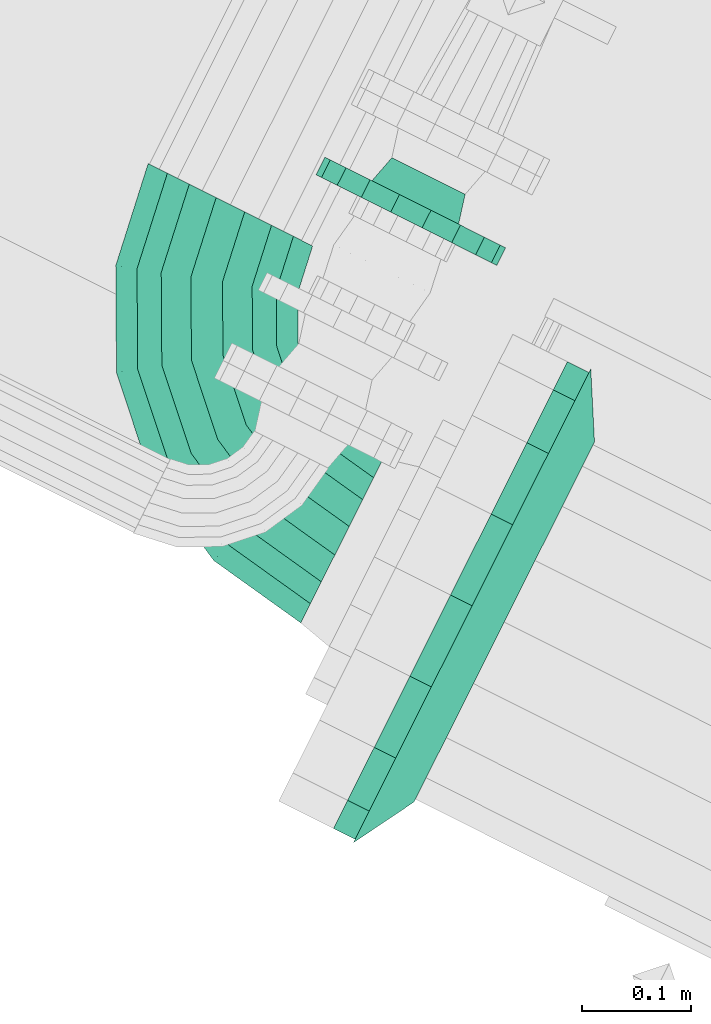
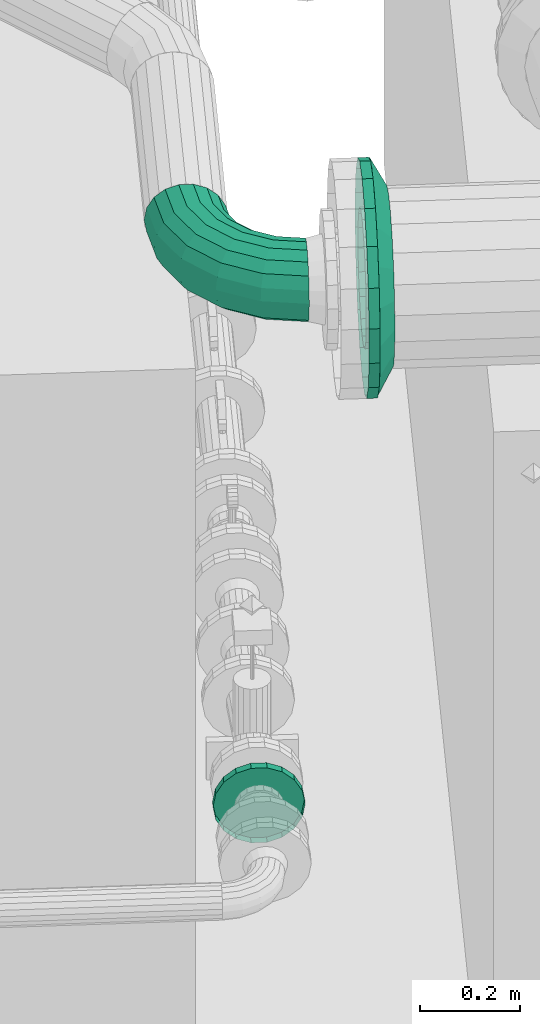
# One storey, part 44 of 206: 2 flow fittings, 1 flow segment.
"""IFC2X3 building model written with IfcOpenShell, lengths in metres."""

from ifc_helpers import new_model, si_unit, derived_unit, direction, frame, origin, place, context, subcontext, project, spatial, face_set, surface_model, source, transform, mapped, material, type_object, type_shapes, element, save


model = new_model("IFC2X3")

# Units and contexts
model_context = context("Model", 3, precision=5.2338327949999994e-05, world=origin(), true_north=direction((0.0, 1.0)))
body_context = subcontext(model_context, "Body", "Model", "MODEL_VIEW")
ifc_project = project(units=[si_unit("LENGTHUNIT", "METRE"), si_unit("AREAUNIT", "SQUARE_METRE"), si_unit("VOLUMEUNIT", "CUBIC_METRE"), si_unit("MASSUNIT", "GRAM", prefix="KILO"), si_unit("PLANEANGLEUNIT", "RADIAN"), derived_unit("THERMALTRANSMITTANCEUNIT", [(si_unit("MASSUNIT", "GRAM", prefix="KILO"), 1), (si_unit("THERMODYNAMICTEMPERATUREUNIT", "KELVIN"), -1), (si_unit("TIMEUNIT", "SECOND"), -3)])], contexts=[model_context])

# Site, building, storey
site_placement = place(None, frame((0.0, 0.0, 0.0), z_axis=(0.0, 0.0, 1.0), x_axis=(0.8939966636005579, -0.4480736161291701, 0.0)))
site = spatial("IfcSite", under=ifc_project, at=site_placement, Name="Default", CompositionType="ELEMENT")
building_placement = place(site_placement, origin())
building = spatial("IfcBuilding", under=site, at=building_placement, CompositionType="ELEMENT")
storey_placement = place(building_placement, origin())
storey = spatial("IfcBuildingStorey", under=building, at=storey_placement, Name="Erdgeschoss", CompositionType="ELEMENT", Elevation=0.0)

# Flow segment
ifc_material_1 = material(Name="IfcSurfaceStyle #9317")
distribution_element_type_1 = type_object("IfcDistributionElementType", Name="Rohrbogen 342983:Rohrbogen 342983", material=ifc_material_1)
shared_shape_1 = source(origin(), body_context, "Body", "SurfaceModel", [
    surface_model("IfcFaceBasedSurfaceModel", [(22.435524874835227, 4.785162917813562, 2.354), (22.435524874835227, 4.790237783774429, 2.382780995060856), (22.340324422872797, 4.80531605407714, 2.382780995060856), (22.338756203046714, 4.800489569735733, 2.354), (22.254442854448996, 4.849074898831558, 2.3827809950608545), (22.251459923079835, 4.844969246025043, 2.3539999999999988), (22.186286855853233, 4.917230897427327, 2.382780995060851), (22.182181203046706, 4.91424796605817, 2.353999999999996), (22.1425280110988, 5.003112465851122, 2.382780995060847), (22.137701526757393, 5.001544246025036, 2.3539999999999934), (22.127449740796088, 5.098312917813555, 2.382780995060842), (22.122374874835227, 5.098312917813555, 2.3539999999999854), (22.435524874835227, 4.8048502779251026, 2.408090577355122), (22.344839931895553, 4.819213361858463, 2.408090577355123), (22.26303186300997, 4.860896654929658, 2.408090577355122), (22.198108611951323, 4.9258199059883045, 2.408090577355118), (22.156425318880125, 5.007627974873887, 2.4080905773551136), (22.142062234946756, 5.098312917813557, 2.4080905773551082), (22.435524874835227, 4.827237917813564, 2.4268760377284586), (22.35175809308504, 4.840505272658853, 2.426876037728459), (22.276190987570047, 4.879008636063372, 2.4268760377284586), (22.216220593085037, 4.938979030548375, 2.426876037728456), (22.177717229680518, 5.014546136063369, 2.4268760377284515), (22.16444987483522, 5.098312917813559, 2.4268760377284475), (22.435524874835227, 4.854700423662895, 2.4368715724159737), (22.3602444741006, 4.866623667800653, 2.4368715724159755), (22.292333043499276, 4.901226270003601, 2.4368715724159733), (22.238438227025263, 4.955121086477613, 2.436871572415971), (22.20383562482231, 5.023032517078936, 2.4368715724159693), (22.19191238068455, 5.098312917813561, 2.4368715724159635), (22.43552487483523, 4.883925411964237, 2.436871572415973), (22.36927549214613, 4.894418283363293, 2.4368715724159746), (22.309511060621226, 4.924869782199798, 2.436871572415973), (22.26208173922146, 4.972299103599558, 2.43687157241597), (22.231630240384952, 5.03206353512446, 2.436871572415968), (22.221137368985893, 5.09831291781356, 2.4368715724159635), (22.435524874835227, 4.911387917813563, 2.426876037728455), (22.37776187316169, 4.9205366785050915, 2.426876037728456), (22.325653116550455, 4.947087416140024, 2.4268760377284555), (22.284299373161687, 4.988441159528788, 2.4268760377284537), (22.257748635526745, 5.040549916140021, 2.42687603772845), (22.248599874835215, 5.098312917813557, 2.4268760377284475), (22.43552487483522, 4.933775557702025, 2.408090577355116), (22.384680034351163, 4.941828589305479, 2.408090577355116), (22.338812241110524, 4.965199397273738, 2.408090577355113), (22.302411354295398, 5.001600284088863, 2.4080905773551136), (22.27904054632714, 5.047468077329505, 2.4080905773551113), (22.27098751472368, 5.098312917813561, 2.4080905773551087), (22.43552487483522, 4.948388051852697, 2.3827809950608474), (22.38919554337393, 4.955725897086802, 2.382780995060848), (22.347401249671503, 4.977021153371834, 2.3827809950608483), (22.3142331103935, 5.010189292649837, 2.382780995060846), (22.292937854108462, 5.0519835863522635, 2.382780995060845), (22.285600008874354, 5.098312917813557, 2.382780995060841), (22.43552487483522, 4.95346291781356, 2.3539999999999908), (22.390763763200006, 4.960552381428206, 2.353999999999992), (22.350384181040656, 4.981126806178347, 2.3539999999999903), (22.318338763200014, 5.013172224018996, 2.35399999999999), (22.29776433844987, 5.053551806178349, 2.353999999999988), (22.29067487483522, 5.09831291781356, 2.3539999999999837), (22.435524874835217, 4.948388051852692, 2.3252190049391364), (22.389195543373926, 4.955725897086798, 2.3252190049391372), (22.347401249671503, 4.977021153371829, 2.325219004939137), (22.314233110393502, 5.010189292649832, 2.3252190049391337), (22.292937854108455, 5.05198358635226, 2.3252190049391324), (22.285600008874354, 5.098312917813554, 2.325219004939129), (22.43552487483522, 4.9337755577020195, 2.299909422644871), (22.384680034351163, 4.941828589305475, 2.2999094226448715), (22.33881224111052, 4.965199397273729, 2.2999094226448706), (22.302411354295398, 5.001600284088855, 2.29990942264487), (22.27904054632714, 5.047468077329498, 2.2999094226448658), (22.270987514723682, 5.098312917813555, 2.299909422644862), (22.43552487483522, 4.911387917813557, 2.2811239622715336), (22.377761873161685, 4.9205366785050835, 2.2811239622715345), (22.325653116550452, 4.947087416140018, 2.2811239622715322), (22.28429937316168, 4.988441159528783, 2.2811239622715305), (22.257748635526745, 5.040549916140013, 2.281123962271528), (22.248599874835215, 5.098312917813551, 2.2811239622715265), (22.435524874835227, 4.883925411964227, 2.2711284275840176), (22.36927549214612, 4.894418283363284, 2.2711284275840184), (22.30951106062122, 4.924869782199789, 2.2711284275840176), (22.26208173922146, 4.972299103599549, 2.271128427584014), (22.23163024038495, 5.0320635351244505, 2.2711284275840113), (22.221137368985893, 5.098312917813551, 2.271128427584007), (22.435524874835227, 4.854700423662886, 2.271128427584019), (22.3602444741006, 4.866623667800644, 2.27112842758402), (22.292333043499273, 4.901226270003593, 2.271128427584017), (22.238438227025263, 4.955121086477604, 2.271128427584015), (22.203835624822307, 5.023032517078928, 2.2711284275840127), (22.19191238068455, 5.098312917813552, 2.271128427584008), (22.435524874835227, 4.827237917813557, 2.281123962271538), (22.35175809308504, 4.840505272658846, 2.281123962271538), (22.276190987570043, 4.879008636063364, 2.2811239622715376), (22.216220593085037, 4.938979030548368, 2.281123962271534), (22.177717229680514, 5.014546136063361, 2.28112396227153), (22.164449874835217, 5.098312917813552, 2.2811239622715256), (22.435524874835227, 4.804850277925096, 2.2999094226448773), (22.344839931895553, 4.819213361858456, 2.299909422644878), (22.26303186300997, 4.860896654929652, 2.299909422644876), (22.198108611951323, 4.925819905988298, 2.2999094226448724), (22.156425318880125, 5.0076279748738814, 2.2999094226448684), (22.142062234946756, 5.0983129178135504, 2.299909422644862), (22.435524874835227, 4.790237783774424, 2.325219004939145), (22.340324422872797, 4.805316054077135, 2.325219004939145), (22.254442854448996, 4.849074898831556, 2.325219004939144), (22.186286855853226, 4.917230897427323, 2.325219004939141), (22.142528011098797, 5.003112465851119, 2.3252190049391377), (22.12744974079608, 5.098312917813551, 2.3252190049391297)], [face_set([[[0, 1, 2, 3]], [[3, 2, 4, 5]], [[5, 4, 6, 7]], [[7, 6, 8, 9]], [[9, 8, 10, 11]], [[1, 12, 13, 2]], [[2, 13, 14, 4]], [[4, 14, 15, 6]], [[6, 15, 16, 8]], [[8, 16, 17, 10]], [[12, 18, 19, 13]], [[13, 19, 20, 14]], [[14, 20, 21, 15]], [[15, 21, 22, 16]], [[16, 22, 23, 17]], [[18, 24, 25, 19]], [[19, 25, 26, 20]], [[20, 26, 27, 21]], [[21, 27, 28, 22]], [[22, 28, 29, 23]], [[24, 30, 31, 25]], [[25, 31, 32, 26]], [[26, 32, 33, 27]], [[27, 33, 34, 28]], [[28, 34, 35, 29]], [[30, 36, 37, 31]], [[31, 37, 38, 32]], [[32, 38, 39, 33]], [[33, 39, 40, 34]], [[34, 40, 41, 35]], [[36, 42, 43, 37]], [[37, 43, 44, 38]], [[38, 44, 45, 39]], [[39, 45, 46, 40]], [[40, 46, 47, 41]], [[42, 48, 49, 43]], [[43, 49, 50, 44]], [[44, 50, 51, 45]], [[45, 51, 52, 46]], [[46, 52, 53, 47]], [[48, 54, 55, 49]], [[49, 55, 56, 50]], [[50, 56, 57, 51]], [[51, 57, 58, 52]], [[52, 58, 59, 53]], [[54, 60, 61, 55]], [[55, 61, 62, 56]], [[56, 62, 63, 57]], [[57, 63, 64, 58]], [[58, 64, 65, 59]], [[60, 66, 67, 61]], [[61, 67, 68, 62]], [[62, 68, 69, 63]], [[63, 69, 70, 64]], [[64, 70, 71, 65]], [[66, 72, 73, 67]], [[67, 73, 74, 68]], [[68, 74, 75, 69]], [[69, 75, 76, 70]], [[70, 76, 77, 71]], [[72, 78, 79, 73]], [[73, 79, 80, 74]], [[74, 80, 81, 75]], [[75, 81, 82, 76]], [[76, 82, 83, 77]], [[78, 84, 85, 79]], [[79, 85, 86, 80]], [[80, 86, 87, 81]], [[81, 87, 88, 82]], [[82, 88, 89, 83]], [[84, 90, 91, 85]], [[85, 91, 92, 86]], [[86, 92, 93, 87]], [[87, 93, 94, 88]], [[88, 94, 95, 89]], [[90, 96, 97, 91]], [[91, 97, 98, 92]], [[92, 98, 99, 93]], [[93, 99, 100, 94]], [[94, 100, 101, 95]], [[96, 102, 103, 97]], [[97, 103, 104, 98]], [[98, 104, 105, 99]], [[99, 105, 106, 100]], [[100, 106, 107, 101]], [[102, 0, 3, 103]], [[103, 3, 5, 104]], [[104, 5, 7, 105]], [[105, 7, 9, 106]], [[106, 9, 11, 107]]])]),
])
type_shapes(distribution_element_type_1, [shared_shape_1])
flow_segment_placement = place(storey_placement, origin())
element("IfcFlowSegment", 1, at=flow_segment_placement, inside=storey, type_object=distribution_element_type_1, material=ifc_material_1, Name="Rohrbogen", ObjectType="Rohrbogen", context=body_context, shape_type="MappedRepresentation", body=[
    mapped(shared_shape_1, transform((0.0, 0.0, 0.0), scale=1.0)),
])

# Flow fittings
distribution_element_type_2 = type_object("IfcDistributionElementType", Name="Flansch 343006:Flansch 343006", material=ifc_material_1)
shared_shape_2 = source(origin(), body_context, "Body", "SurfaceModel", [
    surface_model("IfcFaceBasedSurfaceModel", [(22.546524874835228, 4.869312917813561, 2.4964999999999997), (22.546524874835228, 4.820575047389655, 2.4879061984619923), (22.568524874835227, 4.820575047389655, 2.4879061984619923), (22.568524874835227, 4.869312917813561, 2.4964999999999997), (22.546524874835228, 4.777715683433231, 2.4631613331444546), (22.568524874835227, 4.777715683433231, 2.4631613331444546), (22.546524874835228, 4.745904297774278, 2.4252499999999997), (22.568524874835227, 4.745904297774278, 2.4252499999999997), (22.546524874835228, 4.72897781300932, 2.378744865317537), (22.568524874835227, 4.72897781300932, 2.378744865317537), (22.546524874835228, 4.728977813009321, 2.329255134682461), (22.568524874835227, 4.728977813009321, 2.329255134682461), (22.546524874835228, 4.745904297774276, 2.2827499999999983), (22.568524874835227, 4.745904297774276, 2.2827499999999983), (22.546524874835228, 4.777715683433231, 2.2448386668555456), (22.568524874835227, 4.777715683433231, 2.2448386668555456), (22.546524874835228, 4.820575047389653, 2.2200938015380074), (22.568524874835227, 4.820575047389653, 2.2200938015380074), (22.546524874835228, 4.869312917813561, 2.2115), (22.568524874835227, 4.869312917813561, 2.2115), (22.546524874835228, 4.918050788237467, 2.2200938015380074), (22.568524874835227, 4.918050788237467, 2.2200938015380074), (22.546524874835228, 4.960910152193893, 2.2448386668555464), (22.568524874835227, 4.960910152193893, 2.2448386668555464), (22.546524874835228, 4.992721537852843, 2.282749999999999), (22.568524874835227, 4.992721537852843, 2.282749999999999), (22.546524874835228, 5.0096480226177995, 2.329255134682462), (22.568524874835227, 5.0096480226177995, 2.329255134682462), (22.546524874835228, 5.0096480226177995, 2.3787448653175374), (22.568524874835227, 5.0096480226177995, 2.3787448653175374), (22.546524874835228, 4.992721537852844, 2.4252499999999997), (22.568524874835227, 4.992721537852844, 2.4252499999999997), (22.546524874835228, 4.960910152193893, 2.4631613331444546), (22.568524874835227, 4.960910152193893, 2.4631613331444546), (22.546524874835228, 4.918050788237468, 2.4879061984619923), (22.568524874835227, 4.918050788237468, 2.4879061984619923), (22.568524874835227, 4.869312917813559, 2.353999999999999), (22.568524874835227, 4.777312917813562, 2.3539999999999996), (22.568524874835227, 4.7828611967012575, 2.322534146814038), (22.601524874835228, 4.790237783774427, 2.3252190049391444), (22.601524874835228, 4.785162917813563, 2.353999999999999), (22.568524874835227, 4.798836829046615, 2.294863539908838), (22.601524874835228, 4.804850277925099, 2.2999094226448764), (22.568524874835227, 4.823312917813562, 2.2743256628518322), (22.601524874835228, 4.8272379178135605, 2.2811239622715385), (22.568524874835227, 4.853337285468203, 2.2633976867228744), (22.601524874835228, 4.854700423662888, 2.2711284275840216), (22.568524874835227, 4.885288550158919, 2.263397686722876), (22.601524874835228, 4.883925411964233, 2.271128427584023), (22.568524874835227, 4.915312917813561, 2.2743256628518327), (22.601524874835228, 4.9113879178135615, 2.281123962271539), (22.568524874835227, 4.9397890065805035, 2.294863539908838), (22.601524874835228, 4.933775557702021, 2.299909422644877), (22.568524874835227, 4.955764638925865, 2.3225341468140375), (22.601524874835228, 4.948388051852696, 2.325219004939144), (22.568524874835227, 4.9613129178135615, 2.354), (22.601524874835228, 4.95346291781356, 2.354), (22.568524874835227, 4.955764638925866, 2.385465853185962), (22.601524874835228, 4.948388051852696, 2.3827809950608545), (22.568524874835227, 4.939789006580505, 2.4131364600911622), (22.601524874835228, 4.933775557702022, 2.408090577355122), (22.568524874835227, 4.91531291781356, 2.433674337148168), (22.601524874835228, 4.9113879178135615, 2.4268760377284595), (22.568524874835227, 4.88528855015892, 2.444602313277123), (22.601524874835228, 4.883925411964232, 2.436871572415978), (22.568524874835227, 4.853337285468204, 2.4446023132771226), (22.601524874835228, 4.85470042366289, 2.436871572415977), (22.568524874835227, 4.82331291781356, 2.433674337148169), (22.601524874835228, 4.827237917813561, 2.42687603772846), (22.568524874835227, 4.798836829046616, 2.4131364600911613), (22.601524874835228, 4.8048502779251, 2.4080905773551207), (22.568524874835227, 4.782861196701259, 2.3854658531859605), (22.601524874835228, 4.790237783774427, 2.382780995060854), (22.546524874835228, 4.869312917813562, 2.5965), (22.546524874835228, 4.786373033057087, 2.5818754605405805), (22.568524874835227, 4.786373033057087, 2.5818754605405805), (22.568524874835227, 4.869312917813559, 2.5964999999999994), (22.546524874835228, 4.713436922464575, 2.53976577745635), (22.568524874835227, 4.713436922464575, 2.53976577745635), (22.546524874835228, 4.659301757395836, 2.4752499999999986), (22.568524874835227, 4.659301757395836, 2.4752499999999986), (22.546524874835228, 4.630497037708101, 2.3961096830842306), (22.568524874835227, 4.630497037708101, 2.3961096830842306), (22.546524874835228, 4.630497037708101, 2.3118903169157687), (22.568524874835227, 4.630497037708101, 2.3118903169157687), (22.546524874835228, 4.659301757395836, 2.23275), (22.568524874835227, 4.659301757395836, 2.23275), (22.546524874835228, 4.713436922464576, 2.168234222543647), (22.568524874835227, 4.713436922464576, 2.168234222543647), (22.546524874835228, 4.786373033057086, 2.1261245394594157), (22.568524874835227, 4.786373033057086, 2.1261245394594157), (22.546524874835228, 4.869312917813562, 2.111499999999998), (22.568524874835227, 4.869312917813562, 2.111499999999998), (22.546524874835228, 4.952252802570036, 2.126124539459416), (22.568524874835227, 4.952252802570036, 2.126124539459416), (22.546524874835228, 5.025188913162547, 2.1682342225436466), (22.568524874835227, 5.025188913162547, 2.1682342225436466), (22.546524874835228, 5.079324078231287, 2.2327500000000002), (22.568524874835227, 5.079324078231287, 2.2327500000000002), (22.546524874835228, 5.1081287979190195, 2.3118903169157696), (22.568524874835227, 5.1081287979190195, 2.3118903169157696), (22.546524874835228, 5.1081287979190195, 2.3961096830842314), (22.568524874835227, 5.1081287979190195, 2.3961096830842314), (22.546524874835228, 5.079324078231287, 2.4752499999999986), (22.568524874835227, 5.079324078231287, 2.4752499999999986), (22.546524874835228, 5.0251889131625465, 2.539765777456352), (22.568524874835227, 5.0251889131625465, 2.539765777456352), (22.546524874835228, 4.952252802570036, 2.5818754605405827), (22.568524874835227, 4.952252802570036, 2.5818754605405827), (22.568524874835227, 4.62681291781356, 2.353999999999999), (22.568524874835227, 4.6414374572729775, 2.2710601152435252), (22.601524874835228, 4.6962685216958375, 2.2910169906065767), (22.601524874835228, 4.685162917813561, 2.354), (22.568524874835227, 4.683547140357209, 2.1981240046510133), (22.601524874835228, 4.728245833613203, 2.2356306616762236), (22.568524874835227, 4.74806291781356, 2.143988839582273), (22.601524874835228, 4.777237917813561, 2.1945214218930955), (22.568524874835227, 4.827203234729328, 2.115184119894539), (22.601524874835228, 4.837335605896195, 2.1726476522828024), (22.568524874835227, 4.91142260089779, 2.115184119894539), (22.601524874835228, 4.901290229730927, 2.1726476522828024), (22.568524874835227, 4.990562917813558, 2.1439888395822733), (22.601524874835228, 4.961387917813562, 2.194521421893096), (22.568524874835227, 5.055078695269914, 2.1981240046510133), (22.601524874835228, 5.01038000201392, 2.235630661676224), (22.568524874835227, 5.097188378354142, 2.271060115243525), (22.601524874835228, 5.042357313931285, 2.291016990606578), (22.568524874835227, 5.111812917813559, 2.3540000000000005), (22.601524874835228, 5.053462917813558, 2.3539999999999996), (22.568524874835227, 5.097188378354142, 2.436939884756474), (22.601524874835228, 5.0423573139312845, 2.4169830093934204), (22.568524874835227, 5.0550786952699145, 2.5098759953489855), (22.601524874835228, 5.010380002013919, 2.4723693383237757), (22.568524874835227, 4.99056291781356, 2.5640111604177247), (22.601524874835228, 4.961387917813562, 2.5134785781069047), (22.568524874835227, 4.911422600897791, 2.59281588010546), (22.601524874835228, 4.901290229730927, 2.5353523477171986), (22.568524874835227, 4.827203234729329, 2.5928158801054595), (22.601524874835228, 4.837335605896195, 2.535352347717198), (22.568524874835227, 4.74806291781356, 2.564011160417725), (22.601524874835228, 4.777237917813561, 2.5134785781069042), (22.568524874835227, 4.683547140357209, 2.509875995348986), (22.601524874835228, 4.728245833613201, 2.472369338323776), (22.568524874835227, 4.641437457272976, 2.436939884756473), (22.601524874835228, 4.6962685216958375, 2.4169830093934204)], [face_set([[[0, 1, 2, 3]], [[1, 4, 5, 2]], [[4, 6, 7, 5]], [[6, 8, 9, 7]], [[8, 10, 11, 9]], [[10, 12, 13, 11]], [[12, 14, 15, 13]], [[14, 16, 17, 15]], [[16, 18, 19, 17]], [[18, 20, 21, 19]], [[20, 22, 23, 21]], [[22, 24, 25, 23]], [[24, 26, 27, 25]], [[26, 28, 29, 27]], [[28, 30, 31, 29]], [[30, 32, 33, 31]], [[32, 34, 35, 33]], [[34, 0, 3, 35]], [[36, 35, 3]], [[36, 33, 35]], [[36, 31, 33]], [[36, 29, 31]], [[36, 27, 29]], [[36, 25, 27]], [[36, 23, 25]], [[36, 21, 23]], [[36, 19, 21]], [[36, 17, 19]], [[36, 15, 17]], [[36, 13, 15]], [[36, 11, 13]], [[36, 9, 11]], [[36, 7, 9]], [[36, 5, 7]], [[36, 2, 5]], [[36, 3, 2]], [[37, 38, 39, 40]], [[38, 41, 42, 39]], [[41, 43, 44, 42]], [[43, 45, 46, 44]], [[45, 47, 48, 46]], [[47, 49, 50, 48]], [[49, 51, 52, 50]], [[51, 53, 54, 52]], [[53, 55, 56, 54]], [[55, 57, 58, 56]], [[57, 59, 60, 58]], [[59, 61, 62, 60]], [[61, 63, 64, 62]], [[63, 65, 66, 64]], [[65, 67, 68, 66]], [[67, 69, 70, 68]], [[69, 71, 72, 70]], [[71, 37, 40, 72]], [[73, 74, 75, 76]], [[74, 77, 78, 75]], [[77, 79, 80, 78]], [[79, 81, 82, 80]], [[81, 83, 84, 82]], [[83, 85, 86, 84]], [[85, 87, 88, 86]], [[87, 89, 90, 88]], [[89, 91, 92, 90]], [[91, 93, 94, 92]], [[93, 95, 96, 94]], [[95, 97, 98, 96]], [[97, 99, 100, 98]], [[99, 101, 102, 100]], [[101, 103, 104, 102]], [[103, 105, 106, 104]], [[105, 107, 108, 106]], [[107, 73, 76, 108]], [[109, 110, 111, 112]], [[110, 113, 114, 111]], [[113, 115, 116, 114]], [[115, 117, 118, 116]], [[117, 119, 120, 118]], [[119, 121, 122, 120]], [[121, 123, 124, 122]], [[123, 125, 126, 124]], [[125, 127, 128, 126]], [[127, 129, 130, 128]], [[129, 131, 132, 130]], [[131, 133, 134, 132]], [[133, 135, 136, 134]], [[135, 137, 138, 136]], [[137, 139, 140, 138]], [[139, 141, 142, 140]], [[141, 143, 144, 142]], [[143, 109, 112, 144]]])]),
])
type_shapes(distribution_element_type_2, [shared_shape_2])
flow_fitting_1_placement = place(storey_placement, origin())
element("IfcFlowFitting", 2, at=flow_fitting_1_placement, inside=storey, type_object=distribution_element_type_2, material=ifc_material_1, Name="Flansch", ObjectType="Flansch", context=body_context, shape_type="MappedRepresentation", body=[
    mapped(shared_shape_2, transform((0.0, 0.0, 0.0), scale=1.0)),
])
ifc_material_2 = material(Name="IfcSurfaceStyle #352577")
distribution_element_type_3 = type_object("IfcDistributionElementType", Name="Flansch 353167:Flansch 353167", material=ifc_material_2)
shared_shape_3 = source(origin(), body_context, "Body", "SurfaceModel", [
    surface_model("IfcFaceBasedSurfaceModel", [(22.356766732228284, 5.202958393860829, 0.8319499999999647), (22.36978059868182, 5.202958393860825, 0.834244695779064), (22.372157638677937, 5.175958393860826, 0.827713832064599), (22.35676673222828, 5.175958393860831, 0.8249999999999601), (22.381224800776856, 5.202958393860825, 0.8408520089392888), (22.38569217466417, 5.175958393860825, 0.8355280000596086), (22.38971899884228, 5.202958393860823, 0.8509749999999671), (22.39573787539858, 5.175958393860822, 0.8474999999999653), (22.394238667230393, 5.202958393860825, 0.8633926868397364), (22.401083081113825, 5.175958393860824, 0.8621858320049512), (22.3942386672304, 5.202958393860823, 0.8766073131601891), (22.40108308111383, 5.175958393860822, 0.8778141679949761), (22.38971899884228, 5.202958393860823, 0.8890249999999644), (22.395737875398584, 5.1759583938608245, 0.8924999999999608), (22.38122480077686, 5.202958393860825, 0.8991479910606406), (22.38569217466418, 5.175958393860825, 0.904471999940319), (22.369780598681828, 5.202958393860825, 0.9057553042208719), (22.372157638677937, 5.175958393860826, 0.91228616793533), (22.356766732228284, 5.202958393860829, 0.908049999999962), (22.356766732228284, 5.17595839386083, 0.9149999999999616), (22.34375286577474, 5.202958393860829, 0.905755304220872), (22.341375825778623, 5.175958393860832, 0.9122861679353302), (22.33230866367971, 5.202958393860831, 0.8991479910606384), (22.327841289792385, 5.175958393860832, 0.9044719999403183), (22.323814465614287, 5.202958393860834, 0.8890249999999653), (22.317795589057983, 5.175958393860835, 0.8924999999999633), (22.31929479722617, 5.202958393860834, 0.876607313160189), (22.312450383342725, 5.175958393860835, 0.8778141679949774), (22.319294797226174, 5.202958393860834, 0.8633926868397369), (22.31245038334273, 5.175958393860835, 0.8621858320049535), (22.323814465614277, 5.202958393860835, 0.8509749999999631), (22.317795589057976, 5.175958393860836, 0.8474999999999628), (22.33230866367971, 5.202958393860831, 0.8408520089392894), (22.327841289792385, 5.175958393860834, 0.8355280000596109), (22.343752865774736, 5.202958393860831, 0.8342446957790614), (22.341375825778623, 5.175958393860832, 0.827713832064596), (22.26426673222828, 5.175958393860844, 0.8699999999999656), (22.269845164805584, 5.175958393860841, 0.8383631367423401), (22.269845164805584, 5.1579583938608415, 0.838363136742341), (22.26426673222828, 5.1579583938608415, 0.8699999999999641), (22.285907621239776, 5.17595839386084, 0.8105421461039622), (22.285907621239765, 5.157958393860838, 0.8105421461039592), (22.310516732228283, 5.175958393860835, 0.7898926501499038), (22.310516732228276, 5.157958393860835, 0.7898926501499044), (22.34070427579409, 5.175958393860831, 0.7789052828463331), (22.340704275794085, 5.157958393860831, 0.778905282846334), (22.37282918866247, 5.175958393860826, 0.7789052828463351), (22.372829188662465, 5.157958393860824, 0.7789052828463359), (22.403016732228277, 5.175958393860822, 0.7898926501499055), (22.403016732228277, 5.15795839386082, 0.7898926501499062), (22.427625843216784, 5.175958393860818, 0.8105421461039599), (22.427625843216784, 5.1579583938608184, 0.810542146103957), (22.443688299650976, 5.175958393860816, 0.8383631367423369), (22.443688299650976, 5.157958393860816, 0.8383631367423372), (22.44926673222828, 5.175958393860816, 0.8699999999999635), (22.44926673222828, 5.157958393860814, 0.8699999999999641), (22.44368829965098, 5.175958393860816, 0.90163686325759), (22.443688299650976, 5.157958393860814, 0.9016368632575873), (22.427625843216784, 5.175958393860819, 0.9294578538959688), (22.42762584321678, 5.157958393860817, 0.9294578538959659), (22.403016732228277, 5.175958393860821, 0.9501073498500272), (22.403016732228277, 5.157958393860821, 0.9501073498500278), (22.37282918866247, 5.175958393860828, 0.9610947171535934), (22.37282918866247, 5.157958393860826, 0.9610947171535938), (22.34070427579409, 5.175958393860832, 0.9610947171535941), (22.34070427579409, 5.157958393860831, 0.9610947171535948), (22.310516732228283, 5.175958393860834, 0.9501073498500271), (22.310516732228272, 5.1579583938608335, 0.9501073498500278), (22.285907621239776, 5.175958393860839, 0.9294578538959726), (22.28590762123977, 5.157958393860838, 0.9294578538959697), (22.269845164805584, 5.175958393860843, 0.9016368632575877), (22.269845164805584, 5.157958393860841, 0.9016368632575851), (22.356766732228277, 5.175958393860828, 0.8699999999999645)], [face_set([[[0, 1, 2, 3]], [[1, 4, 5, 2]], [[4, 6, 7, 5]], [[6, 8, 9, 7]], [[8, 10, 11, 9]], [[10, 12, 13, 11]], [[12, 14, 15, 13]], [[14, 16, 17, 15]], [[16, 18, 19, 17]], [[18, 20, 21, 19]], [[20, 22, 23, 21]], [[22, 24, 25, 23]], [[24, 26, 27, 25]], [[26, 28, 29, 27]], [[28, 30, 31, 29]], [[30, 32, 33, 31]], [[32, 34, 35, 33]], [[34, 0, 3, 35]], [[36, 37, 38, 39]], [[37, 40, 41, 38]], [[40, 42, 43, 41]], [[42, 44, 45, 43]], [[44, 46, 47, 45]], [[46, 48, 49, 47]], [[48, 50, 51, 49]], [[50, 52, 53, 51]], [[52, 54, 55, 53]], [[54, 56, 57, 55]], [[56, 58, 59, 57]], [[58, 60, 61, 59]], [[60, 62, 63, 61]], [[62, 64, 65, 63]], [[64, 66, 67, 65]], [[66, 68, 69, 67]], [[68, 70, 71, 69]], [[70, 36, 39, 71]], [[72, 37, 36]], [[72, 40, 37]], [[72, 42, 40]], [[72, 44, 42]], [[72, 46, 44]], [[72, 48, 46]], [[72, 50, 48]], [[72, 52, 50]], [[72, 54, 52]], [[72, 56, 54]], [[72, 58, 56]], [[72, 60, 58]], [[72, 62, 60]], [[72, 64, 62]], [[72, 66, 64]], [[72, 68, 66]], [[72, 70, 68]], [[72, 36, 70]]])]),
])
type_shapes(distribution_element_type_3, [shared_shape_3])
flow_fitting_2_placement = place(storey_placement, origin())
element("IfcFlowFitting", 3, at=flow_fitting_2_placement, inside=storey, type_object=distribution_element_type_3, material=ifc_material_2, Name="Flansch", ObjectType="Flansch", context=body_context, shape_type="MappedRepresentation", body=[
    mapped(shared_shape_3, transform((0.0, 0.0, 0.0), scale=1.0)),
])

save(model, "model.ifc")
